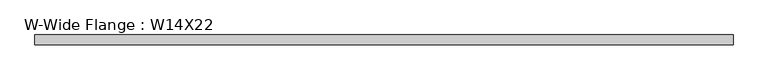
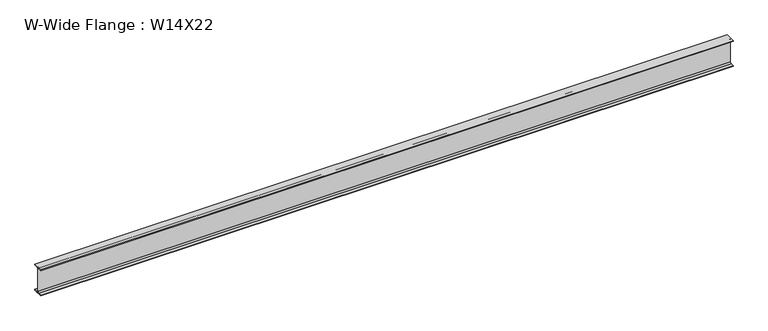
"""IFC4 building model written with IfcOpenShell, lengths in millimetres: beam geometry, W-Wide Flange : W14X22."""

from ifc_helpers import new_model, si_unit, point, frame, frame_2d, origin, place, context, project, spatial, polyline, circle_curve, trimmed, segment, composite_curve, outline, extrude, source, transform, mapped, element, save


def w_wide_flange_w14x22_ec72dc32(model_context):
    return source(origin(), model_context, "Body", "SweptSolid", [
        extrude(outline(composite_curve([segment(polyline([(63.5, -165.481), (63.5, -173.99), (-63.5, -173.99), (-63.5, -165.481), (-21.3995, -165.481)]), True, "CONTINUOUS"), segment(trimmed(circle_curve(frame_2d((-21.3995, -147.0025)), 18.4785), [point((-21.3995, -165.481))], [point((-2.921, -147.0025))], True, "CARTESIAN"), True, "CONTINUOUS"), segment(polyline([(-2.921, -147.0025), (-2.921, 147.0025)]), True, "CONTINUOUS"), segment(trimmed(circle_curve(frame_2d((-21.3995, 147.0025)), 18.4785), [point((-2.921, 147.0025))], [point((-21.3995, 165.481))], True, "CARTESIAN"), True, "CONTINUOUS"), segment(polyline([(-21.3995, 165.481), (-63.5, 165.481), (-63.5, 173.99), (63.5, 173.99), (63.5, 165.481), (21.3995, 165.481)]), True, "CONTINUOUS"), segment(trimmed(circle_curve(frame_2d((21.3995, 147.0025)), 18.4785), [point((21.3995, 165.481))], [point((2.921, 147.0025))], True, "CARTESIAN"), True, "CONTINUOUS"), segment(polyline([(2.921, 147.0025), (2.921, -147.0025)]), True, "CONTINUOUS"), segment(trimmed(circle_curve(frame_2d((21.3995, -147.0025)), 18.4785), [point((2.921, -147.0025))], [point((21.3995, -165.481))], True, "CARTESIAN"), True, "CONTINUOUS"), segment(polyline([(21.3995, -165.481), (63.5, -165.481)]), True, "CONTINUOUS")], self_intersect=False)), frame((-4406.646, 0.0, 0.0), z_axis=(1.0, 0.0, 0.0), x_axis=(0.0, 1.0, 0.0)), (0.0, 0.0, 1.0), 8813.292),
    ])


if __name__ == "__main__":
    model = new_model("IFC4")
    model_context = context("Model", 3, world=origin())
    ifc_project = project(units=[si_unit("LENGTHUNIT", "METRE", prefix="MILLI")], contexts=[model_context])
    site = spatial("IfcSite", under=ifc_project)
    building = spatial("IfcBuilding", under=site)
    placement = place(None, origin())
    w_wide_flange_w14x22_shape = w_wide_flange_w14x22_ec72dc32(model_context)
    element("IfcBeam", 1, ObjectType="W-Wide Flange : W14X22", at=placement, inside=building, context=model_context, shape_type="MappedRepresentation", body=[
        mapped(w_wide_flange_w14x22_shape, transform((0.0, 0.0, 0.0), x_axis=(1.0, 0.0, 0.0), y_axis=(0.0, 1.0, 0.0), z_axis=(0.0, 0.0, 1.0))),
    ])
    save(model, "model.ifc")
